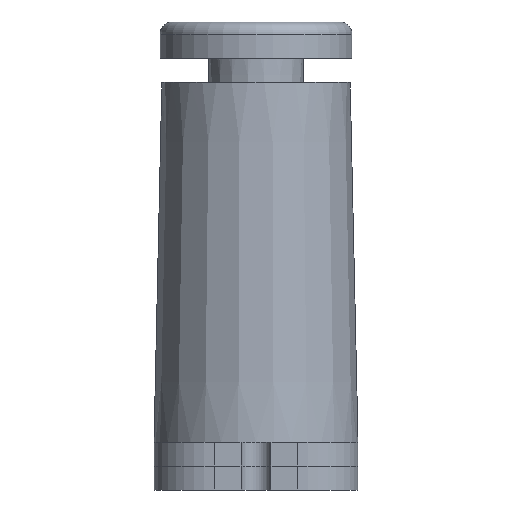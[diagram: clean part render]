
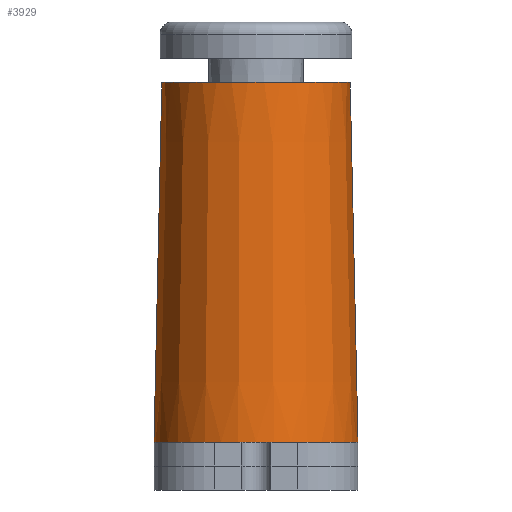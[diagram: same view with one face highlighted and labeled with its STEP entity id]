
A CAD part, left-side view. The second image highlights one B-rep face of the part: STEP entity #3929.
In plain terms, the highlighted conical face has half-angle 1.25 degrees and reference radius 26.988 mm.
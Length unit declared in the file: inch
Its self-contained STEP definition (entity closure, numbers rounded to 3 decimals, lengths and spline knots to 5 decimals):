
#92=CONICAL_SURFACE('',#4291,1.0625,1.25);
#422=FACE_OUTER_BOUND('',#669,.T.);
#669=EDGE_LOOP('',(#3157,#3158,#3159,#3160,#3161,#3162));
#941=LINE('',#8177,#1204);
#942=LINE('',#8180,#1205);
#1204=VECTOR('',#5138,3.66056);
#1205=VECTOR('',#5141,3.66056);
#1402=CIRCLE('',#4280,0.98067);
#1404=CIRCLE('',#4292,1.0625);
#1463=B_SPLINE_CURVE_WITH_KNOTS('',3,(#7840,#7841,#7842,#7843,#7844,#7845,
#7846,#7847,#7848,#7849,#7850,#7851),.UNSPECIFIED.,.F.,.F.,(4,2,2,2,2,4),
(1.08037,1.08086,1.17066,1.26045,1.35003,
1.43094),.UNSPECIFIED.);
#1467=B_SPLINE_CURVE_WITH_KNOTS('',3,(#8015,#8016,#8017,#8018,#8019,#8020,
#8021,#8022,#8023,#8024,#8025,#8026),.UNSPECIFIED.,.F.,.F.,(4,2,2,2,2,4),
(0.00867,0.08958,0.17917,0.26896,
0.35875,0.35925),.UNSPECIFIED.);
#1683=VERTEX_POINT('',#7837);
#1684=VERTEX_POINT('',#7839);
#1735=VERTEX_POINT('',#8012);
#1736=VERTEX_POINT('',#8014);
#1773=VERTEX_POINT('',#8175);
#1774=VERTEX_POINT('',#8179);
#2120=EDGE_CURVE('',#1684,#1683,#1463,.T.);
#2191=EDGE_CURVE('',#1736,#1735,#1467,.T.);
#2247=EDGE_CURVE('',#1735,#1684,#1402,.T.);
#2258=EDGE_CURVE('',#1773,#1683,#941,.T.);
#2259=EDGE_CURVE('',#1774,#1736,#942,.T.);
#2261=EDGE_CURVE('',#1774,#1773,#1404,.T.);
#3157=ORIENTED_EDGE('',*,*,#2120,.T.);
#3158=ORIENTED_EDGE('',*,*,#2258,.F.);
#3159=ORIENTED_EDGE('',*,*,#2261,.F.);
#3160=ORIENTED_EDGE('',*,*,#2259,.T.);
#3161=ORIENTED_EDGE('',*,*,#2191,.T.);
#3162=ORIENTED_EDGE('',*,*,#2247,.T.);
#3929=ADVANCED_FACE('',(#422),#92,.T.);
#4280=AXIS2_PLACEMENT_3D('',#8154,#5109,#5110);
#4291=AXIS2_PLACEMENT_3D('',#8182,#5143,#5144);
#4292=AXIS2_PLACEMENT_3D('',#8183,#5145,#5146);
#5109=DIRECTION('center_axis',(0.,0.,-1.));
#5110=DIRECTION('ref_axis',(0.,1.,0.));
#5138=DIRECTION('',(0.,-0.022,1.));
#5141=DIRECTION('',(0.,0.022,1.));
#5143=DIRECTION('center_axis',(0.,0.,-1.));
#5144=DIRECTION('ref_axis',(0.,1.,0.));
#5145=DIRECTION('center_axis',(0.,0.,-1.));
#5146=DIRECTION('ref_axis',(0.,1.,0.));
#7837=CARTESIAN_POINT('',(-1.,0.98265,4.15968));
#7839=CARTESIAN_POINT('',(-1.09369,0.97619,4.25));
#7840=CARTESIAN_POINT('Ctrl Pts',(-1.09369,0.97619,4.25));
#7841=CARTESIAN_POINT('Ctrl Pts',(-1.09362,0.9762,4.25));
#7842=CARTESIAN_POINT('Ctrl Pts',(-1.09356,0.9762,4.25));
#7843=CARTESIAN_POINT('Ctrl Pts',(-1.08176,0.97733,4.24998));
#7844=CARTESIAN_POINT('Ctrl Pts',(-1.06923,0.97835,4.24761));
#7845=CARTESIAN_POINT('Ctrl Pts',(-1.04617,0.97992,4.23802));
#7846=CARTESIAN_POINT('Ctrl Pts',(-1.03563,0.98048,4.2308));
#7847=CARTESIAN_POINT('Ctrl Pts',(-1.01902,0.98131,4.21414));
#7848=CARTESIAN_POINT('Ctrl Pts',(-1.01182,0.98163,4.20361));
#7849=CARTESIAN_POINT('Ctrl Pts',(-1.00274,0.98217,4.18166));
#7850=CARTESIAN_POINT('Ctrl Pts',(-1.00039,0.98241,4.17042));
#7851=CARTESIAN_POINT('Ctrl Pts',(-1.,0.98265,4.15968));
#8012=CARTESIAN_POINT('',(-1.09369,-0.97619,4.25));
#8014=CARTESIAN_POINT('',(-1.,-0.98265,4.15968));
#8015=CARTESIAN_POINT('Ctrl Pts',(-1.,-0.98265,4.15968));
#8016=CARTESIAN_POINT('Ctrl Pts',(-1.00039,-0.98241,
4.17042));
#8017=CARTESIAN_POINT('Ctrl Pts',(-1.00274,-0.98217,
4.18166));
#8018=CARTESIAN_POINT('Ctrl Pts',(-1.01182,-0.98163,
4.20361));
#8019=CARTESIAN_POINT('Ctrl Pts',(-1.01902,-0.98131,
4.21414));
#8020=CARTESIAN_POINT('Ctrl Pts',(-1.03563,-0.98048,
4.2308));
#8021=CARTESIAN_POINT('Ctrl Pts',(-1.04617,-0.97992,
4.23802));
#8022=CARTESIAN_POINT('Ctrl Pts',(-1.06923,-0.97835,
4.24761));
#8023=CARTESIAN_POINT('Ctrl Pts',(-1.08176,-0.97733,4.24998));
#8024=CARTESIAN_POINT('Ctrl Pts',(-1.09356,-0.9762,
4.25));
#8025=CARTESIAN_POINT('Ctrl Pts',(-1.09362,-0.9762,4.25));
#8026=CARTESIAN_POINT('Ctrl Pts',(-1.09369,-0.97619,
4.25));
#8154=CARTESIAN_POINT('Origin',(-1.,0.,4.25));
#8175=CARTESIAN_POINT('',(-1.,1.0625,0.5));
#8177=CARTESIAN_POINT('',(-1.,1.0625,0.5));
#8179=CARTESIAN_POINT('',(-1.,-1.0625,0.5));
#8180=CARTESIAN_POINT('',(-1.,-1.0625,0.5));
#8182=CARTESIAN_POINT('Origin',(-1.,0.,0.5));
#8183=CARTESIAN_POINT('Origin',(-1.,0.,0.5));
